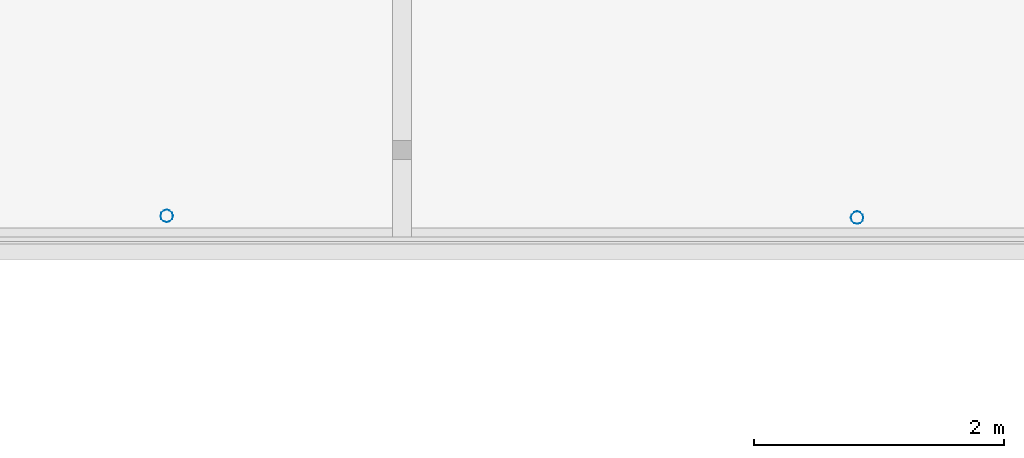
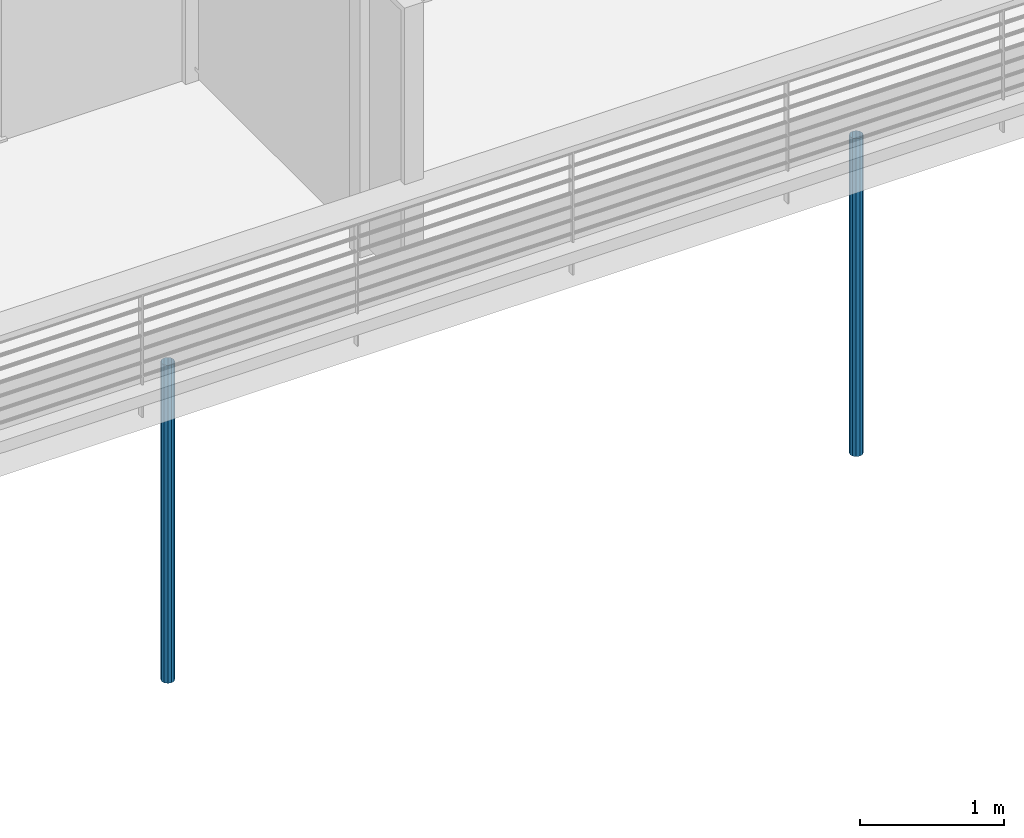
# One storey, part 88 of 171: 2 discrete accessories.
"""IFC2X3 building model written with IfcOpenShell, lengths in millimetres."""

from ifc_helpers import new_model, entity, si_unit, converted_unit, derived_unit, money_unit, direction, frame, origin_with_axes, place, context, subcontext, project, spatial, open_shell, surface_model, source, transform, mapped, type_object, element, save


model = new_model("IFC2X3")

# Units and contexts
model_context = context("Model", 3, precision=0.01, world=origin_with_axes(), true_north=direction((0.0, 1.0)))
body_context = subcontext(model_context, "Body", "Model", "MODEL_VIEW")
ifc_project = project(units=[si_unit("LENGTHUNIT", "METRE", prefix="MILLI"), si_unit("AREAUNIT", "SQUARE_METRE"), si_unit("VOLUMEUNIT", "CUBIC_METRE"), converted_unit("PLANEANGLEUNIT", "DEGREE", entity("IfcPlaneAngleMeasure", 0.0174532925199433), si_unit("PLANEANGLEUNIT", "RADIAN"), dimensions=[0, 0, 0, 0, 0, 0, 0]), money_unit("USD"), converted_unit("TIMEUNIT", "Year", entity("IfcTimeMeasure", 31557600.0), si_unit("TIMEUNIT", "SECOND"), dimensions=[0, 0, 1, 0, 0, 0, 0]), si_unit("MASSUNIT", "GRAM", prefix="KILO"), si_unit("THERMODYNAMICTEMPERATUREUNIT", "DEGREE_CELSIUS"), si_unit("LUMINOUSINTENSITYUNIT", "LUMEN"), si_unit("ENERGYUNIT", "JOULE", prefix="MEGA"), derived_unit("THERMALCONDUCTANCEUNIT", [(si_unit("POWERUNIT", "WATT"), 1), (si_unit("LENGTHUNIT", "METRE"), -1), (si_unit("THERMODYNAMICTEMPERATUREUNIT", "KELVIN"), -1)]), derived_unit("SPECIFICHEATCAPACITYUNIT", [(si_unit("ENERGYUNIT", "JOULE"), 1), (si_unit("MASSUNIT", "GRAM", prefix="KILO"), -1), (si_unit("THERMODYNAMICTEMPERATUREUNIT", "KELVIN"), -1)]), derived_unit("MASSDENSITYUNIT", [(si_unit("MASSUNIT", "GRAM", prefix="KILO"), 1), (si_unit("VOLUMEUNIT", "CUBIC_METRE"), -1)])], contexts=[model_context])

# Site, building, storey
site_placement = place(None, origin_with_axes())
site = spatial("IfcSite", under=ifc_project, at=site_placement, Name="Site", CompositionType="ELEMENT")
building_placement = place(site_placement, origin_with_axes())
building = spatial("IfcBuilding", under=site, at=building_placement, Name="Bâtiment", CompositionType="ELEMENT")
storey_placement = place(building_placement, frame((0.0, 0.0, 3000.0), z_axis=(0.0, 0.0, 1.0), x_axis=(1.0, 0.0, 0.0)))
storey = spatial("IfcBuildingStorey", under=building, at=storey_placement, Name="rdc", CompositionType="ELEMENT", Elevation=3000.0)

# Discrete accessories
discrete_accessory_type = type_object("IfcDiscreteAccessoryType", Name="Tuyau descente 27")
shared_shape = source(origin_with_axes(), body_context, "Body", "SurfaceModel", [
    surface_model("IfcShellBasedSurfaceModel", [(50.0, 0.0, 2700.0), (43.30127018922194, -25.0, 2700.0), (43.30127018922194, -25.0, 0.0), (50.0, 0.0, 0.0), (25.00000000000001, -43.30127018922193, 2700.0), (25.00000000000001, -43.30127018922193, 0.0), (43.30127018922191, 25.00000000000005, 2700.0), (43.30127018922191, 25.00000000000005, 0.0), (0.0, -50.0, 2700.0), (0.0, -50.0, 0.0), (24.99999999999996, 43.30127018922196, 2700.0), (24.99999999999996, 43.30127018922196, 0.0), (-24.99999999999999, -43.30127018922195, 2700.0), (-24.99999999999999, -43.30127018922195, 0.0), (0.0, 50.0, 2700.0), (0.0, 50.0, 0.0), (-43.30127018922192, -25.00000000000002, 2700.0), (-43.30127018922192, -25.00000000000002, 0.0), (-25.00000000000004, 43.30127018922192, 2700.0), (-25.00000000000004, 43.30127018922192, 0.0), (-50.0, 0.0, 2700.0), (-50.0, 0.0, 0.0), (-43.30127018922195, 24.99999999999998, 2700.0), (-43.30127018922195, 24.99999999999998, 0.0)], [open_shell([[[0, 1, 2, 3]], [[1, 4, 5, 2]], [[6, 0, 3, 7]], [[4, 8, 9, 5]], [[10, 6, 7, 11]], [[8, 12, 13, 9]], [[14, 10, 11, 15]], [[12, 16, 17, 13]], [[18, 14, 15, 19]], [[16, 20, 21, 17]], [[22, 18, 19, 23]], [[20, 22, 23, 21]]])]),
])
for number, where, z_axis, x_axis, name in (
    (1, (2222381.379344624, -660750.6647706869, -2669.259401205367), (0.0, 0.0, 1.0), (1.0, 0.0, 0.0), "Obj.-318"),
    (2, (2227904.863986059, -660764.1521233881, -2669.259401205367), (0.0, 0.0, 1.0), (1.0, 0.0, 0.0), "Obj.-318"),
):
    element("IfcDiscreteAccessory", number, at=place(storey_placement, frame(where, z_axis=z_axis, x_axis=x_axis)), inside=storey, type_object=discrete_accessory_type, Name=name, context=body_context, shape_type="MappedRepresentation", body=[
        mapped(shared_shape, transform((0.0, 0.0, 0.0))),
    ])

save(model, "model.ifc")
